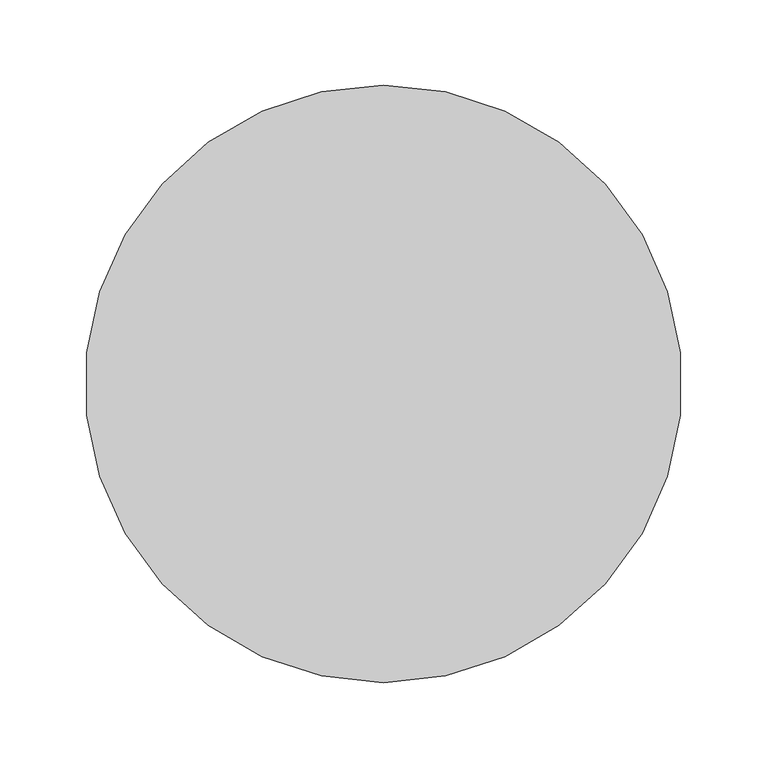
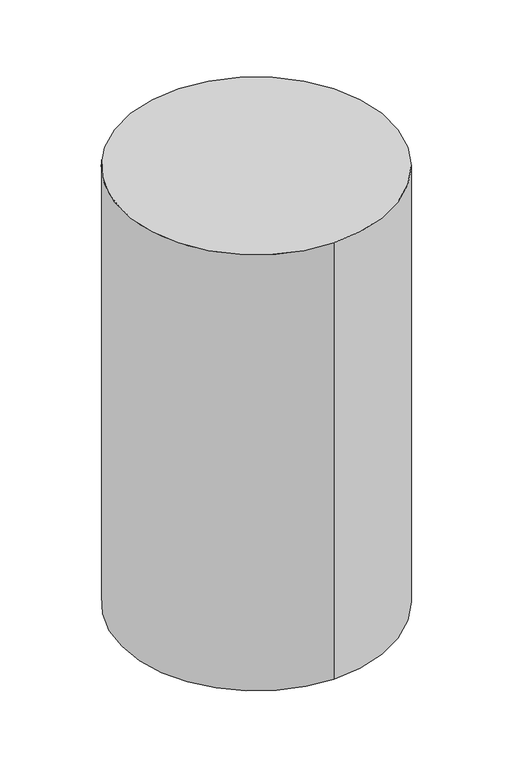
"""IFC4 building model written with IfcOpenShell, lengths in millimetres: proxy geometry, DMS-BWIC Family : BWIC_Circle."""

from ifc_helpers import new_model, si_unit, point, frame, origin, origin_2d, place, context, project, spatial, circle_curve, trimmed, segment, composite_curve, outline, extrude, source, transform, mapped, element, save


def generic_models_4d27aede(model_context):
    return source(origin(), model_context, "Body", "SweptSolid", [
        extrude(outline(composite_curve([segment(trimmed(circle_curve(origin_2d(), 175.0), [point((0.0, 175.0))], [point((0.0, -175.0))], False, "CARTESIAN"), True, "CONTINUOUS"), segment(trimmed(circle_curve(origin_2d(), 175.0), [point((0.0, -175.0))], [point((0.0, 175.0))], False, "CARTESIAN"), True, "CONTINUOUS")], self_intersect=False)), frame((0.0, 0.0, -600.0), z_axis=(0.0, 0.0, 1.0), x_axis=(1.0, 0.0, 0.0)), (0.0, 0.0, 1.0), 600.0),
        extrude(outline(composite_curve([segment(trimmed(circle_curve(origin_2d(), 175.0), [point((0.0, 175.0))], [point((0.0, -175.0))], False, "CARTESIAN"), True, "CONTINUOUS"), segment(trimmed(circle_curve(origin_2d(), 175.0), [point((0.0, -175.0))], [point((0.0, 175.0))], False, "CARTESIAN"), True, "CONTINUOUS")], self_intersect=False)), frame((0.0, 0.0, -600.0), z_axis=(0.0, 0.0, 1.0), x_axis=(1.0, 0.0, 0.0)), (0.0, 0.0, 1.0), 600.0),
    ])


if __name__ == "__main__":
    model = new_model("IFC4")
    model_context = context("Model", 3, world=origin())
    ifc_project = project(units=[si_unit("LENGTHUNIT", "METRE", prefix="MILLI")], contexts=[model_context])
    site = spatial("IfcSite", under=ifc_project)
    building = spatial("IfcBuilding", under=site)
    placement = place(None, origin())
    generic_models_shape = generic_models_4d27aede(model_context)
    element("IfcBuildingElementProxy", 1, Name="DMS-BWIC Family : BWIC_Circle", ObjectType="DMS-BWIC Family : BWIC_Circle", at=placement, inside=building, context=model_context, shape_type="MappedRepresentation", body=[
        mapped(generic_models_shape, transform((0.0, 0.0, 0.0), x_axis=(1.0, 0.0, 0.0), y_axis=(0.0, 1.0, 0.0), z_axis=(0.0, 0.0, 1.0))),
    ])
    save(model, "model.ifc")
